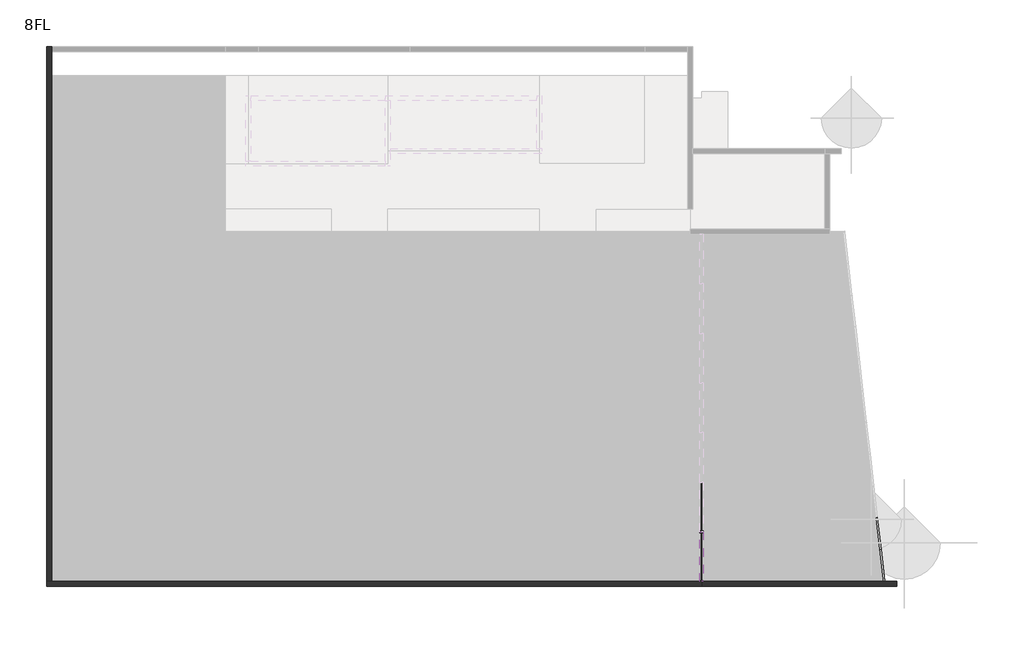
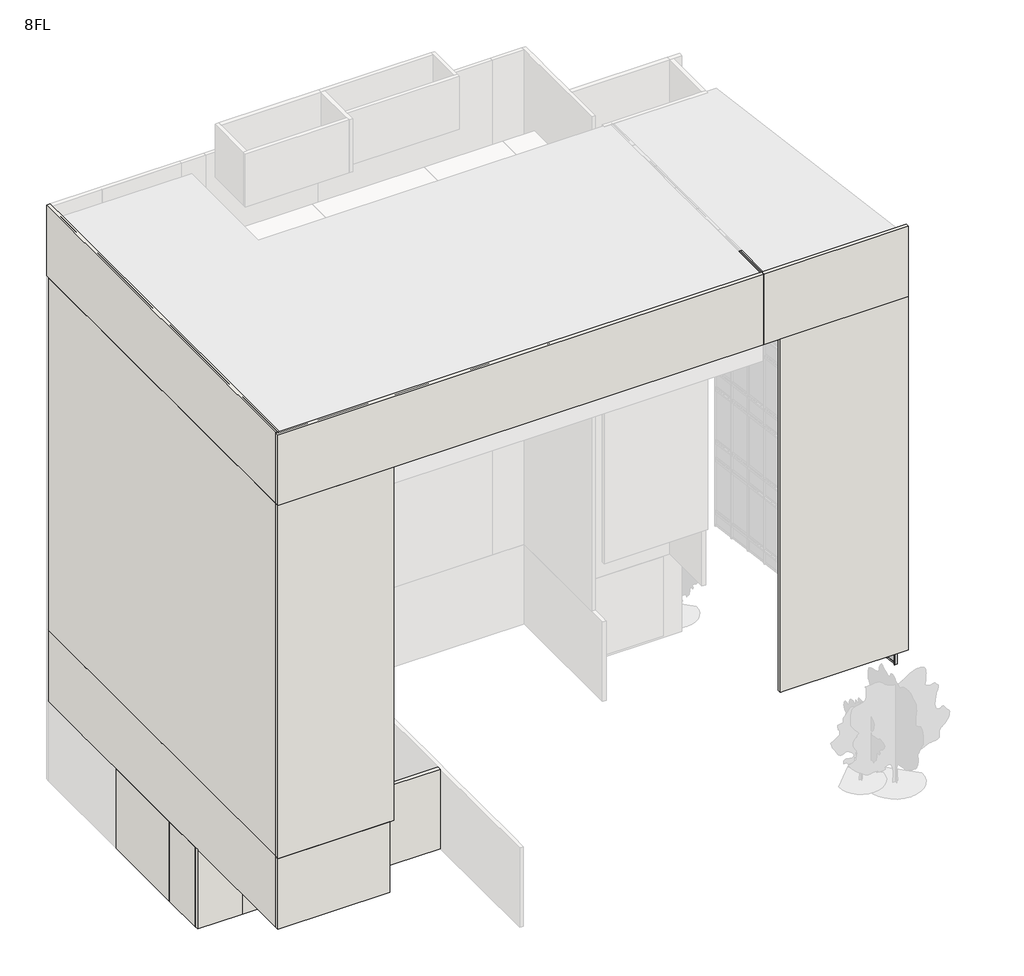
# One storey, part 1 of 4: 58 members, 35 plates, 13 walls.
"""IFC4 building model written with IfcOpenShell, lengths in millimetres."""

from ifc_helpers import new_model, si_unit, frame, origin, place, context, project, spatial, polyline, outline, extrude, faceted_brep, transform, mapped, element, save
from components import member_100x150_5209bdcb, member_100x150_b54df6fd, member_25x150_6388a252, member_25x150_64c6ad17, member_25x150_181524d6, member_25x150_87a4a7cc, member_25x150_c2142158, member_25x150_ebaab477, member_25x150_6da1263c, member_70x150_6224b0b0, member_70x150_d0359e29, member_70x150_07c10103, member_70x150_ebb47e88, member_70x150_8bab1bdf, plate_a5bdaeee, plate_4cdf4cda, plate_bf09a1c6, plate_b29589f3, plate_e86bd2e7, plate_a40ee780, plate_90bea699, plate_46ec0250, plate_257e4bb4, plate_b89069fe

model = new_model("IFC4")

# Units and contexts
model_context = context("Model", 3, world=origin())
ifc_project = project(units=[si_unit("LENGTHUNIT", "METRE", prefix="MILLI")], contexts=[model_context])

# Site, building, storey
site = spatial("IfcSite", under=ifc_project)
building = spatial("IfcBuilding", under=site)
storey = spatial("IfcBuildingStorey", under=building, Name="8FL", Elevation=28600.0)

# Members
placement = place(None, origin())
member_100x150_shape = member_100x150_5209bdcb(model_context)
element("IfcMember", 1, ObjectType="長方形のマリオン : 100x150", at=placement, inside=storey, context=model_context, shape_type="MappedRepresentation", body=[
    mapped(member_100x150_shape, transform((4106.115439, -2186.6767377, 24600.0), x_axis=(0.0, 0.0, 1.0), y_axis=(0.9935326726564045, 0.11354659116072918, 0.0), z_axis=(-0.11354659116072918, 0.9935326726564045, 0.0))),
])
element("IfcMember", 2, ObjectType="長方形のマリオン : 100x150", at=placement, inside=storey, context=model_context, shape_type="MappedRepresentation", body=[
    mapped(member_100x150_shape, transform((4106.115439, -2186.6767377, 23600.0), x_axis=(0.0, 0.0, 1.0), y_axis=(0.9935326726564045, 0.11354659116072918, 0.0), z_axis=(-0.11354659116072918, 0.9935326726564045, 0.0))),
])
element("IfcMember", 3, ObjectType="長方形のマリオン : 100x150", at=placement, inside=storey, context=model_context, shape_type="MappedRepresentation", body=[
    mapped(member_100x150_shape, transform((4106.115439, -2186.6767377, 20600.0), x_axis=(0.0, 0.0, 1.0), y_axis=(0.9935326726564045, 0.11354659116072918, 0.0), z_axis=(-0.11354659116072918, 0.9935326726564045, 0.0))),
])
element("IfcMember", 4, ObjectType="長方形のマリオン : 100x150", at=placement, inside=storey, context=model_context, shape_type="MappedRepresentation", body=[
    mapped(member_100x150_shape, transform((4106.115439, -2186.6767377, 19600.0), x_axis=(0.0, 0.0, 1.0), y_axis=(0.9935326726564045, 0.11354659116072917, 0.0), z_axis=(-0.11354659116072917, 0.9935326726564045, 0.0))),
])
element("IfcMember", 5, ObjectType="長方形のマリオン : 100x150", at=placement, inside=storey, context=model_context, shape_type="MappedRepresentation", body=[
    mapped(member_100x150_shape, transform((4106.115439, -2186.6767377, 16600.0), x_axis=(0.0, 0.0, 1.0), y_axis=(0.9935326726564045, 0.11354659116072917, 0.0), z_axis=(-0.11354659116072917, 0.9935326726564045, 0.0))),
])
element("IfcMember", 6, ObjectType="長方形のマリオン : 100x150", at=placement, inside=storey, context=model_context, shape_type="MappedRepresentation", body=[
    mapped(member_100x150_shape, transform((4106.115439, -2186.6767377, 15600.0), x_axis=(0.0, 0.0, 1.0), y_axis=(0.9935326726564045, 0.11354659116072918, 0.0), z_axis=(-0.11354659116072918, 0.9935326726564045, 0.0))),
])
element("IfcMember", 7, ObjectType="長方形のマリオン : 100x150", at=placement, inside=storey, context=model_context, shape_type="MappedRepresentation", body=[
    mapped(member_100x150_shape, transform((4106.115439, -2186.6767377, 12600.0), x_axis=(0.0, 0.0, 1.0), y_axis=(0.9935326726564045, 0.11354659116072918, 0.0), z_axis=(-0.11354659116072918, 0.9935326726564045, 0.0))),
])
element("IfcMember", 8, ObjectType="長方形のマリオン : 100x150", at=placement, inside=storey, context=model_context, shape_type="MappedRepresentation", body=[
    mapped(member_100x150_shape, transform((4106.115439, -2186.6767377, 11600.0), x_axis=(0.0, 0.0, 1.0), y_axis=(0.9935326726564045, 0.11354659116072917, 0.0), z_axis=(-0.11354659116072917, 0.9935326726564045, 0.0))),
])
element("IfcMember", 9, ObjectType="長方形のマリオン : 100x150", at=placement, inside=storey, context=model_context, shape_type="MappedRepresentation", body=[
    mapped(member_100x150_shape, transform((4106.115439, -2186.6767377, 27600.0), x_axis=(0.0, 0.0, 1.0), y_axis=(0.9935326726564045, 0.11354659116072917, 0.0), z_axis=(-0.11354659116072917, 0.9935326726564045, 0.0))),
])
element("IfcMember", 10, ObjectType="長方形のマリオン : 100x150", at=placement, inside=storey, context=model_context, shape_type="MappedRepresentation", body=[
    mapped(member_100x150_shape, transform((4106.115439, -2186.6767377, 8600.0), x_axis=(0.0, 0.0, 1.0), y_axis=(0.9935326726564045, 0.11354659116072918, 0.0), z_axis=(-0.11354659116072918, 0.9935326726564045, 0.0))),
])
member_100x150_2_shape = member_100x150_b54df6fd(model_context)
element("IfcMember", 11, ObjectType="長方形のマリオン : 100x150", at=placement, inside=storey, context=model_context, shape_type="MappedRepresentation", body=[
    mapped(member_100x150_2_shape, transform((3961.6998546, -923.040374, 24600.0), x_axis=(0.0, 0.0, 1.0), y_axis=(0.9935326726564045, 0.11354659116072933, 0.0), z_axis=(-0.11354659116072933, 0.9935326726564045, 0.0))),
])
element("IfcMember", 12, ObjectType="長方形のマリオン : 100x150", at=placement, inside=storey, context=model_context, shape_type="MappedRepresentation", body=[
    mapped(member_100x150_2_shape, transform((3961.6998546, -923.040374, 23600.0), x_axis=(0.0, 0.0, 1.0), y_axis=(0.9935326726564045, 0.11354659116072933, 0.0), z_axis=(-0.11354659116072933, 0.9935326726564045, 0.0))),
])
element("IfcMember", 13, ObjectType="長方形のマリオン : 100x150", at=placement, inside=storey, context=model_context, shape_type="MappedRepresentation", body=[
    mapped(member_100x150_2_shape, transform((3961.6998546, -923.040374, 20600.0), x_axis=(0.0, 0.0, 1.0), y_axis=(0.9935326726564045, 0.11354659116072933, 0.0), z_axis=(-0.11354659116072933, 0.9935326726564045, 0.0))),
])
element("IfcMember", 14, ObjectType="長方形のマリオン : 100x150", at=placement, inside=storey, context=model_context, shape_type="MappedRepresentation", body=[
    mapped(member_100x150_2_shape, transform((3961.6998546, -923.040374, 19600.0), x_axis=(0.0, 0.0, 1.0), y_axis=(0.9935326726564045, 0.11354659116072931, 0.0), z_axis=(-0.11354659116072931, 0.9935326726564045, 0.0))),
])
element("IfcMember", 15, ObjectType="長方形のマリオン : 100x150", at=placement, inside=storey, context=model_context, shape_type="MappedRepresentation", body=[
    mapped(member_100x150_2_shape, transform((3961.6998546, -923.040374, 16600.0), x_axis=(0.0, 0.0, 1.0), y_axis=(0.9935326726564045, 0.11354659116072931, 0.0), z_axis=(-0.11354659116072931, 0.9935326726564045, 0.0))),
])
element("IfcMember", 16, ObjectType="長方形のマリオン : 100x150", at=placement, inside=storey, context=model_context, shape_type="MappedRepresentation", body=[
    mapped(member_100x150_2_shape, transform((3961.6998546, -923.040374, 15600.0), x_axis=(0.0, 0.0, 1.0), y_axis=(0.9935326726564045, 0.11354659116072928, 0.0), z_axis=(-0.11354659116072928, 0.9935326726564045, 0.0))),
])
element("IfcMember", 17, ObjectType="長方形のマリオン : 100x150", at=placement, inside=storey, context=model_context, shape_type="MappedRepresentation", body=[
    mapped(member_100x150_2_shape, transform((3961.6998546, -923.040374, 12600.0), x_axis=(0.0, 0.0, 1.0), y_axis=(0.9935326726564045, 0.11354659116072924, 0.0), z_axis=(-0.11354659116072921, 0.9935326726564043, 0.0))),
])
element("IfcMember", 18, ObjectType="長方形のマリオン : 100x150", at=placement, inside=storey, context=model_context, shape_type="MappedRepresentation", body=[
    mapped(member_100x150_2_shape, transform((3961.6998546, -923.040374, 11600.0), x_axis=(0.0, 0.0, 1.0), y_axis=(0.9935326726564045, 0.11354659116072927, 0.0), z_axis=(-0.11354659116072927, 0.9935326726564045, 0.0))),
])
element("IfcMember", 19, ObjectType="長方形のマリオン : 100x150", at=placement, inside=storey, context=model_context, shape_type="MappedRepresentation", body=[
    mapped(member_100x150_2_shape, transform((3961.6998546, -923.040374, 27600.0), x_axis=(0.0, 0.0, 1.0), y_axis=(0.9935326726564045, 0.11354659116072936, 0.0), z_axis=(-0.11354659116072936, 0.9935326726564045, 0.0))),
])
element("IfcMember", 20, ObjectType="長方形のマリオン : 100x150", at=placement, inside=storey, context=model_context, shape_type="MappedRepresentation", body=[
    mapped(member_100x150_2_shape, transform((3961.6998546, -923.040374, 8600.0), x_axis=(0.0, 0.0, 1.0), y_axis=(0.9935326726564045, 0.11354659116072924, 0.0), z_axis=(-0.11354659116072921, 0.9935326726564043, 0.0))),
])
member_25x150_shape = member_25x150_6388a252(model_context)
element("IfcMember", 21, ObjectType="長方形のマリオン : 25x150", at=placement, inside=storey, context=model_context, shape_type="MappedRepresentation", body=[
    mapped(member_25x150_shape, transform((3961.6998546, -923.040374, 28600.0), x_axis=(0.0, 0.0, 1.0), y_axis=(0.9935326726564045, 0.11354659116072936, 0.0), z_axis=(-0.11354659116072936, 0.9935326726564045, 0.0))),
])
element("IfcMember", 22, ObjectType="長方形のマリオン : 25x150", at=placement, inside=storey, context=model_context, shape_type="MappedRepresentation", body=[
    mapped(member_25x150_shape, transform((4106.115439, -2186.6767377, 28600.0), x_axis=(0.0, 0.0, 1.0), y_axis=(0.9935326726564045, 0.11354659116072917, 0.0), z_axis=(-0.11354659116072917, 0.9935326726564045, 0.0))),
])
member_25x150_2_shape = member_25x150_64c6ad17(model_context)
element("IfcMember", 23, ObjectType="長方形のマリオン : 25x150", at=placement, inside=storey, context=model_context, shape_type="MappedRepresentation", body=[
    mapped(member_25x150_2_shape, transform((-2945.9784025, -3450.3131013, 32575.0), x_axis=(0.0, -1.0, 0.0), y_axis=(1.0, 0.0, 0.0), z_axis=(0.0, 0.0, 1.0))),
])
member_25x150_3_shape = member_25x150_181524d6(model_context)
element("IfcMember", 24, ObjectType="長方形のマリオン : 25x150", at=placement, inside=storey, context=model_context, shape_type="MappedRepresentation", body=[
    mapped(member_25x150_3_shape, transform((-2945.9784025, -1478.8845299, 32600.0), x_axis=(0.0, 0.0, 1.0), y_axis=(1.0, 0.0, 0.0), z_axis=(0.0, 1.0, 0.0))),
])
member_25x150_4_shape = member_25x150_87a4a7cc(model_context)
element("IfcMember", 25, ObjectType="長方形のマリオン : 25x150", at=placement, inside=storey, context=model_context, shape_type="MappedRepresentation", body=[
    mapped(member_25x150_4_shape, transform((4250.5310234, -3450.3131013, 24600.0), x_axis=(0.11354659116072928, -0.9935326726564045, 0.0), y_axis=(0.9935326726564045, 0.11354659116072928, 0.0), z_axis=(0.0, 0.0, 1.0))),
])
element("IfcMember", 26, ObjectType="長方形のマリオン : 25x150", at=placement, inside=storey, context=model_context, shape_type="MappedRepresentation", body=[
    mapped(member_25x150_4_shape, transform((4250.5310234, -3450.3131013, 20600.0), x_axis=(0.11354659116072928, -0.9935326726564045, 0.0), y_axis=(0.9935326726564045, 0.11354659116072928, 0.0), z_axis=(0.0, 0.0, 1.0))),
])
element("IfcMember", 27, ObjectType="長方形のマリオン : 25x150", at=placement, inside=storey, context=model_context, shape_type="MappedRepresentation", body=[
    mapped(member_25x150_4_shape, transform((4250.5310234, -3450.3131013, 16600.0), x_axis=(0.11354659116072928, -0.9935326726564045, 0.0), y_axis=(0.9935326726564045, 0.11354659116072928, 0.0), z_axis=(0.0, 0.0, 1.0))),
])
element("IfcMember", 28, ObjectType="長方形のマリオン : 25x150", at=placement, inside=storey, context=model_context, shape_type="MappedRepresentation", body=[
    mapped(member_25x150_4_shape, transform((4250.5310234, -3450.3131013, 12600.0), x_axis=(0.11354659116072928, -0.9935326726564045, 0.0), y_axis=(0.9935326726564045, 0.11354659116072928, 0.0), z_axis=(0.0, 0.0, 1.0))),
])
member_25x150_5_shape = member_25x150_c2142158(model_context)
element("IfcMember", 29, ObjectType="長方形のマリオン : 25x150", at=placement, inside=storey, context=model_context, shape_type="MappedRepresentation", body=[
    mapped(member_25x150_5_shape, transform((4250.5310234, -3450.3131013, 23600.0), x_axis=(0.11354659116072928, -0.9935326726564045, 0.0), y_axis=(0.9935326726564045, 0.11354659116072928, 0.0), z_axis=(0.0, 0.0, 1.0))),
])
element("IfcMember", 30, ObjectType="長方形のマリオン : 25x150", at=placement, inside=storey, context=model_context, shape_type="MappedRepresentation", body=[
    mapped(member_25x150_5_shape, transform((4250.5310234, -3450.3131013, 19600.0), x_axis=(0.11354659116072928, -0.9935326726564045, 0.0), y_axis=(0.9935326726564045, 0.11354659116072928, 0.0), z_axis=(0.0, 0.0, 1.0))),
])
element("IfcMember", 31, ObjectType="長方形のマリオン : 25x150", at=placement, inside=storey, context=model_context, shape_type="MappedRepresentation", body=[
    mapped(member_25x150_5_shape, transform((4250.5310234, -3450.3131013, 15600.0), x_axis=(0.11354659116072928, -0.9935326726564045, 0.0), y_axis=(0.9935326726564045, 0.11354659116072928, 0.0), z_axis=(0.0, 0.0, 1.0))),
])
element("IfcMember", 32, ObjectType="長方形のマリオン : 25x150", at=placement, inside=storey, context=model_context, shape_type="MappedRepresentation", body=[
    mapped(member_25x150_5_shape, transform((4250.5310234, -3450.3131013, 11600.0), x_axis=(0.11354659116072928, -0.9935326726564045, 0.0), y_axis=(0.9935326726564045, 0.11354659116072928, 0.0), z_axis=(0.0, 0.0, 1.0))),
])
element("IfcMember", 33, ObjectType="長方形のマリオン : 25x150", at=placement, inside=storey, context=model_context, shape_type="MappedRepresentation", body=[
    mapped(member_25x150_5_shape, transform((4250.5310234, -3450.3131013, 27600.0), x_axis=(0.11354659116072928, -0.9935326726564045, 0.0), y_axis=(0.9935326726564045, 0.11354659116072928, 0.0), z_axis=(0.0, 0.0, 1.0))),
])
member_25x150_6_shape = member_25x150_ebaab477(model_context)
element("IfcMember", 34, ObjectType="長方形のマリオン : 25x150", at=placement, inside=storey, context=model_context, shape_type="MappedRepresentation", body=[
    mapped(member_25x150_6_shape, transform((4250.5310234, -3450.3131013, 8600.0), x_axis=(0.11354659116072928, -0.9935326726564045, 0.0), y_axis=(0.9935326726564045, 0.11354659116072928, 0.0), z_axis=(0.0, 0.0, 1.0))),
])
member_25x150_7_shape = member_25x150_6da1263c(model_context)
element("IfcMember", 35, ObjectType="長方形のマリオン : 25x150", at=placement, inside=storey, context=model_context, shape_type="MappedRepresentation", body=[
    mapped(member_25x150_7_shape, transform((4250.5310234, -3450.3131013, 28575.0), x_axis=(0.11354659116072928, -0.9935326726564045, 0.0), y_axis=(0.9935326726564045, 0.11354659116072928, 0.0), z_axis=(0.0, 0.0, 1.0))),
])
member_70x150_shape = member_70x150_6224b0b0(model_context)
element("IfcMember", 36, ObjectType="長方形のマリオン : 70x150", at=placement, inside=storey, context=model_context, shape_type="MappedRepresentation", body=[
    mapped(member_70x150_shape, transform((-2945.9784025, -1478.8845299, 28600.0), x_axis=(0.0, 1.0, 0.0), y_axis=(1.0, 0.0, 0.0), z_axis=(0.0, 0.0, -1.0))),
])
member_70x150_2_shape = member_70x150_d0359e29(model_context)
element("IfcMember", 37, ObjectType="長方形のマリオン : 70x150", at=placement, inside=storey, context=model_context, shape_type="MappedRepresentation", body=[
    mapped(member_70x150_2_shape, transform((3961.6998546, -923.040374, 23650.0), x_axis=(-0.11354659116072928, 0.9935326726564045, 0.0), y_axis=(0.9935326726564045, 0.11354659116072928, 0.0), z_axis=(0.0, 0.0, -1.0))),
])
element("IfcMember", 38, ObjectType="長方形のマリオン : 70x150", at=placement, inside=storey, context=model_context, shape_type="MappedRepresentation", body=[
    mapped(member_70x150_2_shape, transform((4106.115439, -2186.6767377, 23650.0), x_axis=(-0.11354659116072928, 0.9935326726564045, 0.0), y_axis=(0.9935326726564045, 0.11354659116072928, 0.0), z_axis=(0.0, 0.0, -1.0))),
])
element("IfcMember", 39, ObjectType="長方形のマリオン : 70x150", at=placement, inside=storey, context=model_context, shape_type="MappedRepresentation", body=[
    mapped(member_70x150_2_shape, transform((3961.6998546, -923.040374, 19650.0), x_axis=(-0.11354659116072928, 0.9935326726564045, 0.0), y_axis=(0.9935326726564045, 0.11354659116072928, 0.0), z_axis=(0.0, 0.0, -1.0))),
])
element("IfcMember", 40, ObjectType="長方形のマリオン : 70x150", at=placement, inside=storey, context=model_context, shape_type="MappedRepresentation", body=[
    mapped(member_70x150_2_shape, transform((4106.115439, -2186.6767377, 19650.0), x_axis=(-0.11354659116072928, 0.9935326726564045, 0.0), y_axis=(0.9935326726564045, 0.11354659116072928, 0.0), z_axis=(0.0, 0.0, -1.0))),
])
element("IfcMember", 41, ObjectType="長方形のマリオン : 70x150", at=placement, inside=storey, context=model_context, shape_type="MappedRepresentation", body=[
    mapped(member_70x150_2_shape, transform((3961.6998546, -923.040374, 15650.0), x_axis=(-0.11354659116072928, 0.9935326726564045, 0.0), y_axis=(0.9935326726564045, 0.11354659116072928, 0.0), z_axis=(0.0, 0.0, -1.0))),
])
element("IfcMember", 42, ObjectType="長方形のマリオン : 70x150", at=placement, inside=storey, context=model_context, shape_type="MappedRepresentation", body=[
    mapped(member_70x150_2_shape, transform((4106.115439, -2186.6767377, 15650.0), x_axis=(-0.11354659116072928, 0.9935326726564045, 0.0), y_axis=(0.9935326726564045, 0.11354659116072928, 0.0), z_axis=(0.0, 0.0, -1.0))),
])
element("IfcMember", 43, ObjectType="長方形のマリオン : 70x150", at=placement, inside=storey, context=model_context, shape_type="MappedRepresentation", body=[
    mapped(member_70x150_2_shape, transform((3961.6998546, -923.040374, 11650.0), x_axis=(-0.11354659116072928, 0.9935326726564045, 0.0), y_axis=(0.9935326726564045, 0.11354659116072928, 0.0), z_axis=(0.0, 0.0, -1.0))),
])
element("IfcMember", 44, ObjectType="長方形のマリオン : 70x150", at=placement, inside=storey, context=model_context, shape_type="MappedRepresentation", body=[
    mapped(member_70x150_2_shape, transform((4106.115439, -2186.6767377, 11650.0), x_axis=(-0.11354659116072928, 0.9935326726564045, 0.0), y_axis=(0.9935326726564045, 0.11354659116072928, 0.0), z_axis=(0.0, 0.0, -1.0))),
])
member_70x150_3_shape = member_70x150_07c10103(model_context)
element("IfcMember", 45, ObjectType="長方形のマリオン : 70x150", at=placement, inside=storey, context=model_context, shape_type="MappedRepresentation", body=[
    mapped(member_70x150_3_shape, transform((3961.6998546, -923.040374, 24650.0), x_axis=(-0.11354659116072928, 0.9935326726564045, 0.0), y_axis=(0.9935326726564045, 0.11354659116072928, 0.0), z_axis=(0.0, 0.0, -1.0))),
])
element("IfcMember", 46, ObjectType="長方形のマリオン : 70x150", at=placement, inside=storey, context=model_context, shape_type="MappedRepresentation", body=[
    mapped(member_70x150_3_shape, transform((4106.115439, -2186.6767377, 24650.0), x_axis=(-0.11354659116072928, 0.9935326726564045, 0.0), y_axis=(0.9935326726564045, 0.11354659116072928, 0.0), z_axis=(0.0, 0.0, -1.0))),
])
element("IfcMember", 47, ObjectType="長方形のマリオン : 70x150", at=placement, inside=storey, context=model_context, shape_type="MappedRepresentation", body=[
    mapped(member_70x150_3_shape, transform((3961.6998546, -923.040374, 20650.0), x_axis=(-0.11354659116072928, 0.9935326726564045, 0.0), y_axis=(0.9935326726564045, 0.11354659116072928, 0.0), z_axis=(0.0, 0.0, -1.0))),
])
element("IfcMember", 48, ObjectType="長方形のマリオン : 70x150", at=placement, inside=storey, context=model_context, shape_type="MappedRepresentation", body=[
    mapped(member_70x150_3_shape, transform((4106.115439, -2186.6767377, 20650.0), x_axis=(-0.11354659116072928, 0.9935326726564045, 0.0), y_axis=(0.9935326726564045, 0.11354659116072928, 0.0), z_axis=(0.0, 0.0, -1.0))),
])
element("IfcMember", 49, ObjectType="長方形のマリオン : 70x150", at=placement, inside=storey, context=model_context, shape_type="MappedRepresentation", body=[
    mapped(member_70x150_3_shape, transform((3961.6998546, -923.040374, 16650.0), x_axis=(-0.11354659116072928, 0.9935326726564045, 0.0), y_axis=(0.9935326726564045, 0.11354659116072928, 0.0), z_axis=(0.0, 0.0, -1.0))),
])
element("IfcMember", 50, ObjectType="長方形のマリオン : 70x150", at=placement, inside=storey, context=model_context, shape_type="MappedRepresentation", body=[
    mapped(member_70x150_3_shape, transform((4106.115439, -2186.6767377, 16650.0), x_axis=(-0.11354659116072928, 0.9935326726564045, 0.0), y_axis=(0.9935326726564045, 0.11354659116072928, 0.0), z_axis=(0.0, 0.0, -1.0))),
])
element("IfcMember", 51, ObjectType="長方形のマリオン : 70x150", at=placement, inside=storey, context=model_context, shape_type="MappedRepresentation", body=[
    mapped(member_70x150_3_shape, transform((3961.6998546, -923.040374, 12650.0), x_axis=(-0.11354659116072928, 0.9935326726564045, 0.0), y_axis=(0.9935326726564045, 0.11354659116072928, 0.0), z_axis=(0.0, 0.0, -1.0))),
])
element("IfcMember", 52, ObjectType="長方形のマリオン : 70x150", at=placement, inside=storey, context=model_context, shape_type="MappedRepresentation", body=[
    mapped(member_70x150_3_shape, transform((4106.115439, -2186.6767377, 12650.0), x_axis=(-0.11354659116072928, 0.9935326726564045, 0.0), y_axis=(0.9935326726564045, 0.11354659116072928, 0.0), z_axis=(0.0, 0.0, -1.0))),
])
element("IfcMember", 53, ObjectType="長方形のマリオン : 70x150", at=placement, inside=storey, context=model_context, shape_type="MappedRepresentation", body=[
    mapped(member_70x150_3_shape, transform((4106.115439, -2186.6767377, 8650.0), x_axis=(-0.11354659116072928, 0.9935326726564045, 0.0), y_axis=(0.9935326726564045, 0.11354659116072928, 0.0), z_axis=(0.0, 0.0, -1.0))),
])
element("IfcMember", 54, ObjectType="長方形のマリオン : 70x150", at=placement, inside=storey, context=model_context, shape_type="MappedRepresentation", body=[
    mapped(member_70x150_3_shape, transform((3961.6998546, -923.040374, 8650.0), x_axis=(-0.11354659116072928, 0.9935326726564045, 0.0), y_axis=(0.9935326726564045, 0.11354659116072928, 0.0), z_axis=(0.0, 0.0, -1.0))),
])
member_70x150_4_shape = member_70x150_ebb47e88(model_context)
element("IfcMember", 55, ObjectType="長方形のマリオン : 70x150", at=placement, inside=storey, context=model_context, shape_type="MappedRepresentation", body=[
    mapped(member_70x150_4_shape, transform((3961.6998546, -923.040374, 7850.0), x_axis=(-0.11354659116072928, 0.9935326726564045, 0.0), y_axis=(0.9935326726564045, 0.11354659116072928, 0.0), z_axis=(0.0, 0.0, -1.0))),
])
element("IfcMember", 56, ObjectType="長方形のマリオン : 70x150", at=placement, inside=storey, context=model_context, shape_type="MappedRepresentation", body=[
    mapped(member_70x150_4_shape, transform((4106.115439, -2186.6767377, 7850.0), x_axis=(-0.11354659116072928, 0.9935326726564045, 0.0), y_axis=(0.9935326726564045, 0.11354659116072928, 0.0), z_axis=(0.0, 0.0, -1.0))),
])
member_70x150_5_shape = member_70x150_8bab1bdf(model_context)
element("IfcMember", 57, ObjectType="長方形のマリオン : 70x150", at=placement, inside=storey, context=model_context, shape_type="MappedRepresentation", body=[
    mapped(member_70x150_5_shape, transform((3961.6998546, -923.040374, 27650.0), x_axis=(-0.11354659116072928, 0.9935326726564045, 0.0), y_axis=(0.9935326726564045, 0.11354659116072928, 0.0), z_axis=(0.0, 0.0, -1.0))),
])
element("IfcMember", 58, ObjectType="長方形のマリオン : 70x150", at=placement, inside=storey, context=model_context, shape_type="MappedRepresentation", body=[
    mapped(member_70x150_5_shape, transform((4106.115439, -2186.6767377, 27650.0), x_axis=(-0.11354659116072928, 0.9935326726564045, 0.0), y_axis=(0.9935326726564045, 0.11354659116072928, 0.0), z_axis=(0.0, 0.0, -1.0))),
])

# Plates
plate_shape = plate_a5bdaeee(model_context)
element("IfcPlate", 59, ObjectType="r パネル FIX 下框付 : 框 H100", at=placement, inside=storey, context=model_context, shape_type="MappedRepresentation", body=[
    mapped(plate_shape, transform((-2945.9784025, -493.1702442, 28600.0), x_axis=(0.0, 1.0, 0.0), y_axis=(-1.0, 0.0, 0.0), z_axis=(0.0, 0.0, 1.0))),
])
plate_2_shape = plate_4cdf4cda(model_context)
element("IfcPlate", 60, ObjectType="r パネル FIX 下框付 : 框 H100", at=placement, inside=storey, context=model_context, shape_type="MappedRepresentation", body=[
    mapped(plate_2_shape, transform((-2945.9784025, -2469.5988156, 28600.0), x_axis=(0.0, 1.0, 0.0), y_axis=(-1.0, 0.0, 0.0), z_axis=(0.0, 0.0, 1.0))),
])
plate_3_shape = plate_bf09a1c6(model_context)
element("IfcPlate", 61, ObjectType="r パネル FIX 下框付 : 框 H100", at=placement, inside=storey, context=model_context, shape_type="MappedRepresentation", body=[
    mapped(plate_3_shape, transform((4178.8909642, -2823.4625828, 23650.0), x_axis=(-0.11354659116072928, 0.9935326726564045, 0.0), y_axis=(-0.9935326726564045, -0.11354659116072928, 0.0), z_axis=(0.0, 0.0, 1.0))),
])
element("IfcPlate", 62, ObjectType="r パネル FIX 下框付 : 框 H100", at=placement, inside=storey, context=model_context, shape_type="MappedRepresentation", body=[
    mapped(plate_3_shape, transform((4178.8909642, -2823.4625828, 19650.0), x_axis=(-0.11354659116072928, 0.9935326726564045, 0.0), y_axis=(-0.9935326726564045, -0.11354659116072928, 0.0), z_axis=(0.0, 0.0, 1.0))),
])
element("IfcPlate", 63, ObjectType="r パネル FIX 下框付 : 框 H100", at=placement, inside=storey, context=model_context, shape_type="MappedRepresentation", body=[
    mapped(plate_3_shape, transform((4178.8909642, -2823.4625828, 15650.0), x_axis=(-0.11354659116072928, 0.9935326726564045, 0.0), y_axis=(-0.9935326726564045, -0.11354659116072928, 0.0), z_axis=(0.0, 0.0, 1.0))),
])
element("IfcPlate", 64, ObjectType="r パネル FIX 下框付 : 框 H100", at=placement, inside=storey, context=model_context, shape_type="MappedRepresentation", body=[
    mapped(plate_3_shape, transform((4178.8909642, -2823.4625828, 11650.0), x_axis=(-0.11354659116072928, 0.9935326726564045, 0.0), y_axis=(-0.9935326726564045, -0.11354659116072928, 0.0), z_axis=(0.0, 0.0, 1.0))),
])
plate_4_shape = plate_b29589f3(model_context)
element("IfcPlate", 65, ObjectType="r パネル FIX 下框付 : 框 H100", at=placement, inside=storey, context=model_context, shape_type="MappedRepresentation", body=[
    mapped(plate_4_shape, transform((3889.4920624, -291.2221922, 23650.0), x_axis=(-0.11354659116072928, 0.9935326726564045, 0.0), y_axis=(-0.9935326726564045, -0.11354659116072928, 0.0), z_axis=(0.0, 0.0, 1.0))),
])
element("IfcPlate", 66, ObjectType="r パネル FIX 下框付 : 框 H100", at=placement, inside=storey, context=model_context, shape_type="MappedRepresentation", body=[
    mapped(plate_4_shape, transform((4033.9076468, -1554.8585558, 23650.0), x_axis=(-0.11354659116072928, 0.9935326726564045, 0.0), y_axis=(-0.9935326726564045, -0.11354659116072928, 0.0), z_axis=(0.0, 0.0, 1.0))),
])
element("IfcPlate", 67, ObjectType="r パネル FIX 下框付 : 框 H100", at=placement, inside=storey, context=model_context, shape_type="MappedRepresentation", body=[
    mapped(plate_4_shape, transform((3889.4920624, -291.2221922, 19650.0), x_axis=(-0.11354659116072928, 0.9935326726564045, 0.0), y_axis=(-0.9935326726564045, -0.11354659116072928, 0.0), z_axis=(0.0, 0.0, 1.0))),
])
element("IfcPlate", 68, ObjectType="r パネル FIX 下框付 : 框 H100", at=placement, inside=storey, context=model_context, shape_type="MappedRepresentation", body=[
    mapped(plate_4_shape, transform((4033.9076468, -1554.8585558, 19650.0), x_axis=(-0.11354659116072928, 0.9935326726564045, 0.0), y_axis=(-0.9935326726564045, -0.11354659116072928, 0.0), z_axis=(0.0, 0.0, 1.0))),
])
element("IfcPlate", 69, ObjectType="r パネル FIX 下框付 : 框 H100", at=placement, inside=storey, context=model_context, shape_type="MappedRepresentation", body=[
    mapped(plate_4_shape, transform((3889.4920624, -291.2221922, 15650.0), x_axis=(-0.11354659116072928, 0.9935326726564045, 0.0), y_axis=(-0.9935326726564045, -0.11354659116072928, 0.0), z_axis=(0.0, 0.0, 1.0))),
])
element("IfcPlate", 70, ObjectType="r パネル FIX 下框付 : 框 H100", at=placement, inside=storey, context=model_context, shape_type="MappedRepresentation", body=[
    mapped(plate_4_shape, transform((4033.9076468, -1554.8585558, 15650.0), x_axis=(-0.11354659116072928, 0.9935326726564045, 0.0), y_axis=(-0.9935326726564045, -0.11354659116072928, 0.0), z_axis=(0.0, 0.0, 1.0))),
])
element("IfcPlate", 71, ObjectType="r パネル FIX 下框付 : 框 H100", at=placement, inside=storey, context=model_context, shape_type="MappedRepresentation", body=[
    mapped(plate_4_shape, transform((3889.4920624, -291.2221922, 11650.0), x_axis=(-0.11354659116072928, 0.9935326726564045, 0.0), y_axis=(-0.9935326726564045, -0.11354659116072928, 0.0), z_axis=(0.0, 0.0, 1.0))),
])
element("IfcPlate", 72, ObjectType="r パネル FIX 下框付 : 框 H100", at=placement, inside=storey, context=model_context, shape_type="MappedRepresentation", body=[
    mapped(plate_4_shape, transform((4033.9076468, -1554.8585558, 11650.0), x_axis=(-0.11354659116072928, 0.9935326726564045, 0.0), y_axis=(-0.9935326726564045, -0.11354659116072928, 0.0), z_axis=(0.0, 0.0, 1.0))),
])
plate_5_shape = plate_e86bd2e7(model_context)
element("IfcPlate", 73, ObjectType="r パネル FIX 下框付 : 框 H100", at=placement, inside=storey, context=model_context, shape_type="MappedRepresentation", body=[
    mapped(plate_5_shape, transform((4178.8909642, -2823.4625828, 24650.0), x_axis=(-0.11354659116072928, 0.9935326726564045, 0.0), y_axis=(-0.9935326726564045, -0.11354659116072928, 0.0), z_axis=(0.0, 0.0, 1.0))),
])
element("IfcPlate", 74, ObjectType="r パネル FIX 下框付 : 框 H100", at=placement, inside=storey, context=model_context, shape_type="MappedRepresentation", body=[
    mapped(plate_5_shape, transform((4178.8909642, -2823.4625828, 20650.0), x_axis=(-0.11354659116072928, 0.9935326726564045, 0.0), y_axis=(-0.9935326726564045, -0.11354659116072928, 0.0), z_axis=(0.0, 0.0, 1.0))),
])
element("IfcPlate", 75, ObjectType="r パネル FIX 下框付 : 框 H100", at=placement, inside=storey, context=model_context, shape_type="MappedRepresentation", body=[
    mapped(plate_5_shape, transform((4178.8909642, -2823.4625828, 16650.0), x_axis=(-0.11354659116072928, 0.9935326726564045, 0.0), y_axis=(-0.9935326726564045, -0.11354659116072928, 0.0), z_axis=(0.0, 0.0, 1.0))),
])
element("IfcPlate", 76, ObjectType="r パネル FIX 下框付 : 框 H100", at=placement, inside=storey, context=model_context, shape_type="MappedRepresentation", body=[
    mapped(plate_5_shape, transform((4178.8909642, -2823.4625828, 12650.0), x_axis=(-0.11354659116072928, 0.9935326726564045, 0.0), y_axis=(-0.9935326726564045, -0.11354659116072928, 0.0), z_axis=(0.0, 0.0, 1.0))),
])
element("IfcPlate", 77, ObjectType="r パネル FIX 下框付 : 框 H100", at=placement, inside=storey, context=model_context, shape_type="MappedRepresentation", body=[
    mapped(plate_5_shape, transform((4178.8909642, -2823.4625828, 8650.0), x_axis=(-0.11354659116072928, 0.9935326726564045, 0.0), y_axis=(-0.9935326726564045, -0.11354659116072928, 0.0), z_axis=(0.0, 0.0, 1.0))),
])
plate_6_shape = plate_a40ee780(model_context)
element("IfcPlate", 78, ObjectType="r パネル FIX 下框付 : 框 H100", at=placement, inside=storey, context=model_context, shape_type="MappedRepresentation", body=[
    mapped(plate_6_shape, transform((3889.4920624, -291.2221922, 24650.0), x_axis=(-0.11354659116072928, 0.9935326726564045, 0.0), y_axis=(-0.9935326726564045, -0.11354659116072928, 0.0), z_axis=(0.0, 0.0, 1.0))),
])
element("IfcPlate", 79, ObjectType="r パネル FIX 下框付 : 框 H100", at=placement, inside=storey, context=model_context, shape_type="MappedRepresentation", body=[
    mapped(plate_6_shape, transform((4033.9076468, -1554.8585558, 24650.0), x_axis=(-0.11354659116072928, 0.9935326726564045, 0.0), y_axis=(-0.9935326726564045, -0.11354659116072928, 0.0), z_axis=(0.0, 0.0, 1.0))),
])
element("IfcPlate", 80, ObjectType="r パネル FIX 下框付 : 框 H100", at=placement, inside=storey, context=model_context, shape_type="MappedRepresentation", body=[
    mapped(plate_6_shape, transform((3889.4920624, -291.2221922, 20650.0), x_axis=(-0.11354659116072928, 0.9935326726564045, 0.0), y_axis=(-0.9935326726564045, -0.11354659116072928, 0.0), z_axis=(0.0, 0.0, 1.0))),
])
element("IfcPlate", 81, ObjectType="r パネル FIX 下框付 : 框 H100", at=placement, inside=storey, context=model_context, shape_type="MappedRepresentation", body=[
    mapped(plate_6_shape, transform((4033.9076468, -1554.8585558, 20650.0), x_axis=(-0.11354659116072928, 0.9935326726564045, 0.0), y_axis=(-0.9935326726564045, -0.11354659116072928, 0.0), z_axis=(0.0, 0.0, 1.0))),
])
element("IfcPlate", 82, ObjectType="r パネル FIX 下框付 : 框 H100", at=placement, inside=storey, context=model_context, shape_type="MappedRepresentation", body=[
    mapped(plate_6_shape, transform((3889.4920624, -291.2221922, 16650.0), x_axis=(-0.11354659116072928, 0.9935326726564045, 0.0), y_axis=(-0.9935326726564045, -0.11354659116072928, 0.0), z_axis=(0.0, 0.0, 1.0))),
])
element("IfcPlate", 83, ObjectType="r パネル FIX 下框付 : 框 H100", at=placement, inside=storey, context=model_context, shape_type="MappedRepresentation", body=[
    mapped(plate_6_shape, transform((4033.9076468, -1554.8585558, 16650.0), x_axis=(-0.11354659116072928, 0.9935326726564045, 0.0), y_axis=(-0.9935326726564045, -0.11354659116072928, 0.0), z_axis=(0.0, 0.0, 1.0))),
])
element("IfcPlate", 84, ObjectType="r パネル FIX 下框付 : 框 H100", at=placement, inside=storey, context=model_context, shape_type="MappedRepresentation", body=[
    mapped(plate_6_shape, transform((3889.4920624, -291.2221922, 12650.0), x_axis=(-0.11354659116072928, 0.9935326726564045, 0.0), y_axis=(-0.9935326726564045, -0.11354659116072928, 0.0), z_axis=(0.0, 0.0, 1.0))),
])
element("IfcPlate", 85, ObjectType="r パネル FIX 下框付 : 框 H100", at=placement, inside=storey, context=model_context, shape_type="MappedRepresentation", body=[
    mapped(plate_6_shape, transform((4033.9076468, -1554.8585558, 12650.0), x_axis=(-0.11354659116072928, 0.9935326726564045, 0.0), y_axis=(-0.9935326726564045, -0.11354659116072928, 0.0), z_axis=(0.0, 0.0, 1.0))),
])
element("IfcPlate", 86, ObjectType="r パネル FIX 下框付 : 框 H100", at=placement, inside=storey, context=model_context, shape_type="MappedRepresentation", body=[
    mapped(plate_6_shape, transform((4033.9076468, -1554.8585558, 8650.0), x_axis=(-0.11354659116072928, 0.9935326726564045, 0.0), y_axis=(-0.9935326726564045, -0.11354659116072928, 0.0), z_axis=(0.0, 0.0, 1.0))),
])
element("IfcPlate", 87, ObjectType="r パネル FIX 下框付 : 框 H100", at=placement, inside=storey, context=model_context, shape_type="MappedRepresentation", body=[
    mapped(plate_6_shape, transform((3889.4920624, -291.2221922, 8650.0), x_axis=(-0.11354659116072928, 0.9935326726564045, 0.0), y_axis=(-0.9935326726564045, -0.11354659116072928, 0.0), z_axis=(0.0, 0.0, 1.0))),
])
plate_7_shape = plate_90bea699(model_context)
element("IfcPlate", 88, ObjectType="r パネル FIX 下框付 : 框 H100", at=placement, inside=storey, context=model_context, shape_type="MappedRepresentation", body=[
    mapped(plate_7_shape, transform((4178.8909642, -2823.4625828, 7850.0), x_axis=(-0.11354659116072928, 0.9935326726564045, 0.0), y_axis=(-0.9935326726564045, -0.11354659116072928, 0.0), z_axis=(0.0, 0.0, 1.0))),
])
plate_8_shape = plate_46ec0250(model_context)
element("IfcPlate", 89, ObjectType="r パネル FIX 下框付 : 框 H100", at=placement, inside=storey, context=model_context, shape_type="MappedRepresentation", body=[
    mapped(plate_8_shape, transform((3889.4920624, -291.2221922, 7850.0), x_axis=(-0.11354659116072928, 0.9935326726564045, 0.0), y_axis=(-0.9935326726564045, -0.11354659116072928, 0.0), z_axis=(0.0, 0.0, 1.0))),
])
element("IfcPlate", 90, ObjectType="r パネル FIX 下框付 : 框 H100", at=placement, inside=storey, context=model_context, shape_type="MappedRepresentation", body=[
    mapped(plate_8_shape, transform((4033.9076468, -1554.8585558, 7850.0), x_axis=(-0.11354659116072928, 0.9935326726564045, 0.0), y_axis=(-0.9935326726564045, -0.11354659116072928, 0.0), z_axis=(0.0, 0.0, 1.0))),
])
plate_9_shape = plate_257e4bb4(model_context)
element("IfcPlate", 91, ObjectType="r パネル FIX 下框付 : 框 H100", at=placement, inside=storey, context=model_context, shape_type="MappedRepresentation", body=[
    mapped(plate_9_shape, transform((4178.8909642, -2823.4625828, 27650.0), x_axis=(-0.11354659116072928, 0.9935326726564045, 0.0), y_axis=(-0.9935326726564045, -0.11354659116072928, 0.0), z_axis=(0.0, 0.0, 1.0))),
])
plate_10_shape = plate_b89069fe(model_context)
element("IfcPlate", 92, ObjectType="r パネル FIX 下框付 : 框 H100", at=placement, inside=storey, context=model_context, shape_type="MappedRepresentation", body=[
    mapped(plate_10_shape, transform((3889.4920624, -291.2221922, 27650.0), x_axis=(-0.11354659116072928, 0.9935326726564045, 0.0), y_axis=(-0.9935326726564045, -0.11354659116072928, 0.0), z_axis=(0.0, 0.0, 1.0))),
])
element("IfcPlate", 93, ObjectType="r パネル FIX 下框付 : 框 H100", at=placement, inside=storey, context=model_context, shape_type="MappedRepresentation", body=[
    mapped(plate_10_shape, transform((4033.9076468, -1554.8585558, 27650.0), x_axis=(-0.11354659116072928, 0.9935326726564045, 0.0), y_axis=(-0.9935326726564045, -0.11354659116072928, 0.0), z_axis=(0.0, 0.0, 1.0))),
])

# Walls
element("IfcWall", 94, ObjectType="標準200", at=placement, inside=storey, context=model_context, shape_type="Brep", body=[
    faceted_brep([(-2045.9784025, -3650.3131013, 8600.0), (-1845.9784025, -3650.3131013, 8600.0), (4810.9285935, -3650.3131013, 8600.0), (4810.9285935, -3650.3131013, 28600.0), (-2045.9784025, -3650.3131013, 28600.0), (-2045.9784025, -3650.3131013, 27976.5550266), (-2045.9784025, -3450.3131013, 8600.0), (-2045.9784025, -3450.3131013, 28600.0), (2754.0215975, -3450.3131013, 28600.0), (3654.0215975, -3450.3131013, 28600.0), (4810.9285935, -3450.3131013, 28600.0), (4810.9285935, -3450.3131013, 8600.0), (-1845.9784025, -3450.3131013, 8600.0)], [[[0, 1, 2, 3, 4, 5]], [[6, 7, 8, 9, 10, 11, 12]], [[2, 1, 0, 6, 12, 11]], [[3, 2, 11, 10]], [[4, 3, 10, 9, 8, 7]], [[0, 5, 4, 7, 6]]]),
    faceted_brep([(-22745.9784025, -3650.3131013, 28600.0), (-28945.9784025, -3650.3131013, 28600.0), (-28945.9784025, -3650.3131013, 8600.0), (-22945.9784025, -3650.3131013, 8600.0), (-22745.9784025, -3650.3131013, 8600.0), (-22745.9784025, -3650.3131013, 27976.561141), (-22745.9784025, -3450.3131013, 28600.0), (-22745.9784025, -3450.3131013, 8600.0), (-22945.9784025, -3450.3131013, 8600.0), (-28745.9784025, -3450.3131013, 8600.0), (-28945.9784025, -3450.3131013, 8600.0), (-28945.9784025, -3450.3131013, 28600.0), (-28745.9784025, -3450.3131013, 28600.0)], [[[0, 1, 2, 3, 4, 5]], [[6, 7, 8, 9, 10, 11, 12]], [[1, 0, 6, 12, 11]], [[4, 3, 2, 10, 9, 8, 7]], [[2, 1, 11, 10]], [[0, 5, 4, 7, 6]]]),
])
element("IfcWall", 95, ObjectType="標準200", at=placement, inside=storey, context=model_context, shape_type="Brep", body=[
    faceted_brep([(-28945.9784025, -3650.3131013, 28600.0), (-22745.9784025, -3650.3131013, 28600.0), (-2945.9784025, -3650.3131013, 28600.0), (-2945.9784025, -3650.3131013, 32600.0), (-28945.9784025, -3650.3131013, 32600.0), (-28945.9784025, -3450.3131013, 28600.0), (-28945.9784025, -3450.3131013, 32600.0), (-28745.9784025, -3450.3131013, 32600.0), (-27945.9784025, -3450.3131013, 32600.0), (-21845.9784025, -3450.3131013, 32600.0), (-20945.9784025, -3450.3131013, 32600.0), (-15845.9784025, -3450.3131013, 32600.0), (-14945.9784025, -3450.3131013, 32600.0), (-9845.9784025, -3450.3131013, 32600.0), (-8945.9784025, -3450.3131013, 32600.0), (-3845.9784025, -3450.3131013, 32600.0), (-2945.9784025, -3450.3131013, 32600.0), (-2945.9784025, -3450.3131013, 28600.0), (-3845.9784025, -3450.3131013, 28600.0), (-8945.9784025, -3450.3131013, 28600.0), (-9845.9784025, -3450.3131013, 28600.0), (-14945.9784025, -3450.3131013, 28600.0), (-15845.9784025, -3450.3131013, 28600.0), (-20945.9784025, -3450.3131013, 28600.0), (-21845.9784025, -3450.3131013, 28600.0), (-22745.9784025, -3450.3131013, 28600.0), (-28745.9784025, -3450.3131013, 28600.0), (-2945.9784025, -3550.3131013, 28600.0)], [[[0, 1, 2, 3, 4]], [[5, 6, 7, 8, 9, 10, 11, 12, 13, 14, 15, 16, 17, 18, 19, 20, 21, 22, 23, 24, 25, 26]], [[2, 1, 0, 5, 26, 25, 24, 23, 22, 21, 20, 19, 18, 17, 27]], [[3, 2, 27, 17, 16]], [[4, 3, 16, 15, 14, 13, 12, 11, 10, 9, 8, 7, 6]], [[0, 4, 6, 5]]]),
])
element("IfcWall", 96, ObjectType="標準200", at=placement, inside=storey, context=model_context, shape_type="Brep", body=[
    faceted_brep([(-28945.9784025, -3650.3131013, 4600.0), (-22945.9784025, -3650.3131013, 4600.0), (-22945.9784025, -3650.3131013, 8600.0), (-28945.9784025, -3650.3131013, 8600.0), (-28945.9784025, -3450.3131013, 4600.0), (-28945.9784025, -3450.3131013, 8600.0), (-28745.9784025, -3450.3131013, 8600.0), (-22945.9784025, -3450.3131013, 8600.0), (-22945.9784025, -3450.3131013, 4600.0), (-27945.9784025, -3450.3131013, 4600.0), (-28745.9784025, -3450.3131013, 4600.0)], [[[0, 1, 2, 3]], [[4, 5, 6, 7, 8, 9, 10]], [[1, 0, 4, 10, 9, 8]], [[3, 2, 7, 6, 5]], [[0, 3, 5, 4]], [[2, 1, 8, 7]]]),
])
element("IfcWall", 97, ObjectType="標準200", at=placement, inside=storey, context=model_context, shape_type="SweptSolid", body=[
    extrude(outline(polyline([(-15945.9784025, 3799.6868987), (-20945.9784025, 3799.6868987), (-20945.9784025, 3999.6868987), (-15945.9784025, 3999.6868987), (-15945.9784025, 3799.6868987)])), frame((0.0, 0.0, 100.0), z_axis=(0.0, 0.0, 1.0), x_axis=(1.0, 0.0, 0.0)), (0.0, 0.0, 1.0), 4500.0),
])
element("IfcWall", 98, ObjectType="標準200", at=placement, inside=storey, context=model_context, shape_type="Brep", body=[
    faceted_brep([(-24745.9784025, 3799.6868987, 100.0), (-21845.9784025, 3799.6868987, 100.0), (-20945.9784025, 3799.6868987, 100.0), (-20945.9784025, 3799.6868987, 4600.0), (-21845.9784025, 3799.6868987, 4600.0), (-24745.9784025, 3799.6868987, 4600.0), (-24745.9784025, 3999.6868987, 100.0), (-24745.9784025, 3999.6868987, 4600.0), (-21845.9784025, 3999.6868987, 4600.0), (-20945.9784025, 3999.6868987, 4600.0), (-20945.9784025, 3999.6868987, 100.0), (-21845.9784025, 3999.6868987, 100.0)], [[[0, 1, 2, 3, 4, 5]], [[6, 7, 8, 9, 10, 11]], [[2, 1, 0, 6, 11, 10]], [[3, 2, 10, 9]], [[5, 4, 3, 9, 8, 7]], [[0, 5, 7, 6]]]),
])
element("IfcWall", 99, ObjectType="標準200", at=placement, inside=storey, context=model_context, shape_type="SweptSolid", body=[
    extrude(outline(polyline([(-24745.9784025, 3799.6868987), (-26545.9784025, 3799.6868987), (-26545.9784025, 3999.6868987), (-24745.9784025, 3999.6868987), (-24745.9784025, 3799.6868987)])), frame((0.0, 0.0, 100.0), z_axis=(0.0, 0.0, 1.0), x_axis=(1.0, 0.0, 0.0)), (0.0, 0.0, 1.0), 4500.0),
])
element("IfcWall", 100, ObjectType="標準200", at=placement, inside=storey, context=model_context, shape_type="Brep", body=[
    faceted_brep([(-28945.9784025, 3799.6868987, 100.0), (-28845.9784025, 3799.6868987, 100.0), (-27945.9784025, 3799.6868987, 100.0), (-26545.9784025, 3799.6868987, 100.0), (-26545.9784025, 3799.6868987, 4600.0), (-27945.9784025, 3799.6868987, 4600.0), (-28745.9784025, 3799.6868987, 4600.0), (-28845.9784025, 3799.6868987, 4600.0), (-28945.9784025, 3799.6868987, 4600.0), (-28945.9784025, 3999.6868987, 100.0), (-28945.9784025, 3999.6868987, 4600.0), (-28745.9784025, 3999.6868987, 4600.0), (-27945.9784025, 3999.6868987, 4600.0), (-26545.9784025, 3999.6868987, 4600.0), (-26545.9784025, 3999.6868987, 100.0), (-27945.9784025, 3999.6868987, 100.0), (-28745.9784025, 3999.6868987, 100.0)], [[[0, 1, 2, 3, 4, 5, 6, 7, 8]], [[9, 10, 11, 12, 13, 14, 15, 16]], [[3, 2, 1, 0, 9, 16, 15, 14]], [[4, 3, 14, 13]], [[8, 7, 6, 5, 4, 13, 12, 11, 10]], [[0, 8, 10, 9]]]),
])
element("IfcWall", 101, ObjectType="標準200", at=placement, inside=storey, context=model_context, shape_type="Brep", body=[
    faceted_brep([(-28945.9784025, 6399.6868987, 100.0), (-28945.9784025, 3999.6868987, 100.0), (-28945.9784025, 3999.6868987, 4600.0), (-28945.9784025, 6399.6868987, 4600.0), (-28745.9784025, 6399.6868987, 100.0), (-28745.9784025, 6399.6868987, 4600.0), (-28745.9784025, 3999.6868987, 4600.0), (-28745.9784025, 3999.6868987, 100.0), (-28745.9784025, 4349.6868987, 100.0)], [[[0, 1, 2, 3]], [[4, 5, 6, 7, 8]], [[1, 0, 4, 8, 7]], [[3, 2, 6, 5]], [[0, 3, 5, 4]], [[2, 1, 7, 6]]]),
])
element("IfcWall", 102, ObjectType="標準200", at=placement, inside=storey, context=model_context, shape_type="Brep", body=[
    faceted_brep([(-28945.9784025, 11349.6868987, 100.0), (-28945.9784025, 6399.6868987, 100.0), (-28945.9784025, 6399.6868987, 4600.0), (-28945.9784025, 11349.6868987, 4600.0), (-28745.9784025, 11349.6868987, 100.0), (-28745.9784025, 11349.6868987, 4600.0), (-28745.9784025, 6399.6868987, 4600.0), (-28745.9784025, 6399.6868987, 100.0), (-28745.9784025, 10449.6868987, 100.0), (-28845.9784025, 11349.6868987, 100.0)], [[[0, 1, 2, 3]], [[4, 5, 6, 7, 8]], [[1, 0, 9, 4, 8, 7]], [[2, 1, 7, 6]], [[3, 2, 6, 5]], [[0, 3, 5, 4, 9]]]),
])
element("IfcWall", 103, ObjectType="標準200", at=placement, inside=storey, context=model_context, shape_type="Brep", body=[
    faceted_brep([(-28945.9784025, 17599.6868987, 4600.0), (-28945.9784025, -3450.3131013, 4600.0), (-28945.9784025, -3450.3131013, 8600.0), (-28945.9784025, 17599.6868987, 8600.0), (-28745.9784025, 17599.6868987, 4600.0), (-28745.9784025, 17599.6868987, 8600.0), (-28745.9784025, -3450.3131013, 8600.0), (-28745.9784025, -3450.3131013, 4600.0), (-28745.9784025, -2650.3131013, 4600.0), (-28745.9784025, 3449.6868987, 4600.0), (-28745.9784025, 3799.6868987, 4600.0), (-28745.9784025, 3999.6868987, 4600.0)], [[[0, 1, 2, 3]], [[4, 5, 6, 7, 8, 9, 10, 11]], [[1, 0, 4, 11, 10, 9, 8, 7]], [[3, 2, 6, 5]], [[2, 1, 7, 6]], [[0, 3, 5, 4]]]),
])
element("IfcWall", 104, ObjectType="標準200", at=placement, inside=storey, context=model_context, shape_type="SweptSolid", body=[
    extrude(outline(polyline([(-28945.9784025, -3450.3131013), (-28945.9784025, 17599.6868987), (-28745.9784025, 17599.6868987), (-28745.9784025, -3450.3131013), (-28945.9784025, -3450.3131013)])), frame((0.0, 0.0, 8600.0), z_axis=(0.0, 0.0, 1.0), x_axis=(1.0, 0.0, 0.0)), (0.0, 0.0, 1.0), 20000.0),
])
element("IfcWall", 105, ObjectType="標準200", at=placement, inside=storey, context=model_context, shape_type="Brep", body=[
    faceted_brep([(-28945.9784025, 17799.6868987, 28600.0), (-28945.9784025, -3450.3131013, 28600.0), (-28945.9784025, -3450.3131013, 32600.0), (-28945.9784025, 17799.6868987, 32600.0), (-28745.9784025, 17799.6868987, 28600.0), (-28745.9784025, 17799.6868987, 32600.0), (-28745.9784025, 17599.6868987, 32600.0), (-28745.9784025, 16649.6868987, 32600.0), (-28745.9784025, 15749.6868987, 32600.0), (-28745.9784025, 11349.6868987, 32600.0), (-28745.9784025, 10449.6868987, 32600.0), (-28745.9784025, 4349.6868987, 32600.0), (-28745.9784025, 3449.6868987, 32600.0), (-28745.9784025, -2650.3131013, 32600.0), (-28745.9784025, -3450.3131013, 32600.0), (-28745.9784025, -3450.3131013, 28600.0), (-28745.9784025, 17599.6868987, 28600.0)], [[[0, 1, 2, 3]], [[4, 5, 6, 7, 8, 9, 10, 11, 12, 13, 14, 15, 16]], [[1, 0, 4, 16, 15]], [[3, 2, 14, 13, 12, 11, 10, 9, 8, 7, 6, 5]], [[2, 1, 15, 14]], [[0, 3, 5, 4]]]),
])
element("IfcWall", 106, ObjectType="標準200", at=placement, inside=storey, context=model_context, shape_type="Brep", body=[
    faceted_brep([(-2945.9784025, -3650.3131013, 28600.0), (-2045.9784025, -3650.3131013, 28600.0), (4810.9285935, -3650.3131013, 28600.0), (4810.9285935, -3650.3131013, 32600.0), (-2945.9784025, -3650.3131013, 32600.0), (-2945.9784025, -3450.3131013, 28600.0), (-2945.9784025, -3450.3131013, 32600.0), (4810.9285935, -3450.3131013, 32600.0), (4810.9285935, -3450.3131013, 28600.0), (-2045.9784025, -3450.3131013, 28600.0)], [[[0, 1, 2, 3, 4]], [[5, 6, 7, 8, 9]], [[2, 1, 0, 5, 9, 8]], [[3, 2, 8, 7]], [[4, 3, 7, 6]], [[0, 4, 6, 5]]]),
])

save(model, "model.ifc")
